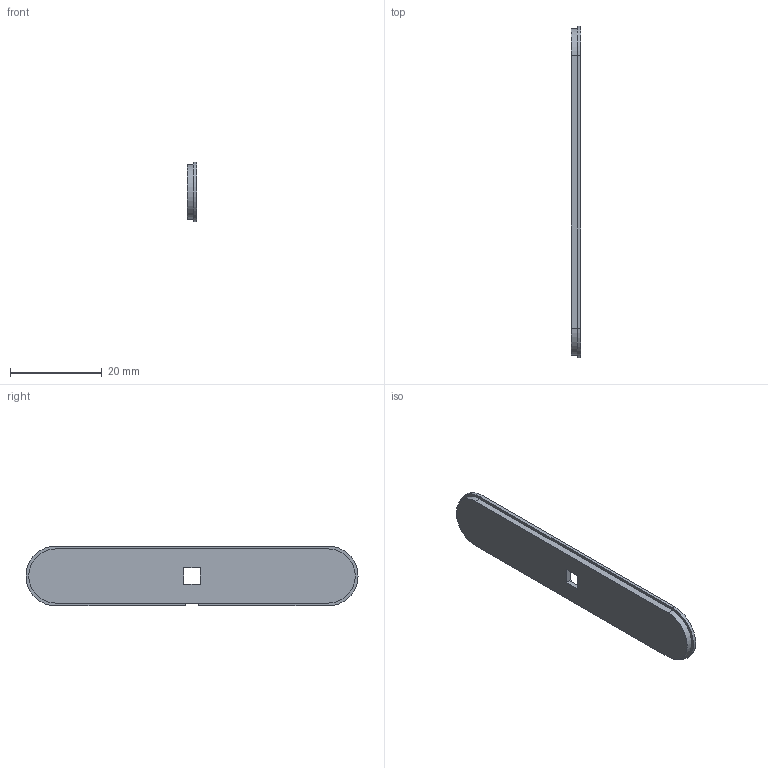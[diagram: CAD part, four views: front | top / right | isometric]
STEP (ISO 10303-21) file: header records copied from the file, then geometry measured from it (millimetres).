
FILE_DESCRIPTION(('Open CASCADE Model'),'2;1');
FILE_NAME('Open CASCADE Shape Model','2026-09-08T16:14:21',('Author'),( 'Open CASCADE'),'Open CASCADE STEP processor 7.7','Open CASCADE 7.7' ,'Unknown');
FILE_SCHEMA(('AUTOMOTIVE_DESIGN { 1 0 10303 214 1 1 1 1 }'));
Length unit declared in the file: millimetre
Products named in the file (1): Open CASCADE STEP translator 7.7 14
Bounding box: 2.05 x 72.4 x 13 mm (x, y, z)
Volume: 1639.9 mm3; surface area: 2148.8 mm2
Topology: 1 solids, 1 shells, 25 faces, 72 edges, 48 vertices
Faces by surface type: plane 21, cylinder 4
Entity records: 1704 total; most frequent: CARTESIAN_POINT 350, DIRECTION 216, ORIENTED_EDGE 144, PCURVE 144, DEFINITIONAL_REPRESENTATION 144, LINE 140, VECTOR 140, EDGE_CURVE 72
